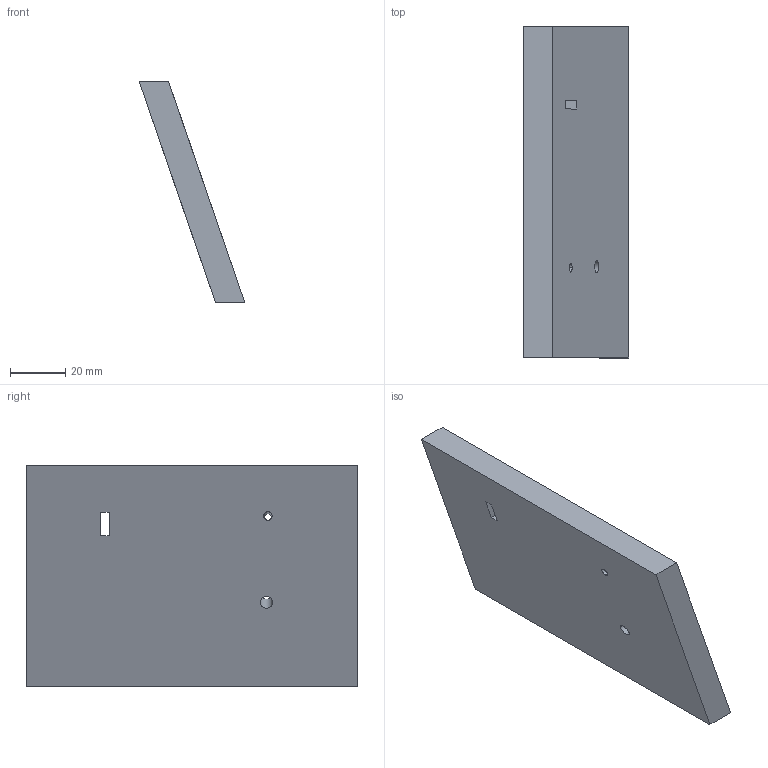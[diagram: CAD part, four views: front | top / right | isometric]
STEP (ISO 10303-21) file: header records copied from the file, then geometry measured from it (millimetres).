
FILE_DESCRIPTION(('STEP AP214'),'1');
FILE_NAME('tmp0.step','2026-06-11T18:19:59',(' '),(' '),'Spatial InterOp 3D',' ',' ');
FILE_SCHEMA(('AUTOMOTIVE_DESIGN { 1 0 10303 214 1 1 1 1 }'));
Length unit declared in the file: millimetre
Products named in the file (1): 1
Bounding box: 38.2 x 120 x 80.24 mm (x, y, z)
Volume: 101274.6 mm3; surface area: 25010.4 mm2
Topology: 1 solids, 1 shells, 14 faces, 36 edges, 24 vertices
Faces by surface type: plane 10, cylinder 4
Entity records: 465 total; most frequent: CARTESIAN_POINT 75, DIRECTION 74, ORIENTED_EDGE 72, EDGE_CURVE 36, LINE 28, VECTOR 28, VERTEX_POINT 24, AXIS2_PLACEMENT_3D 23
